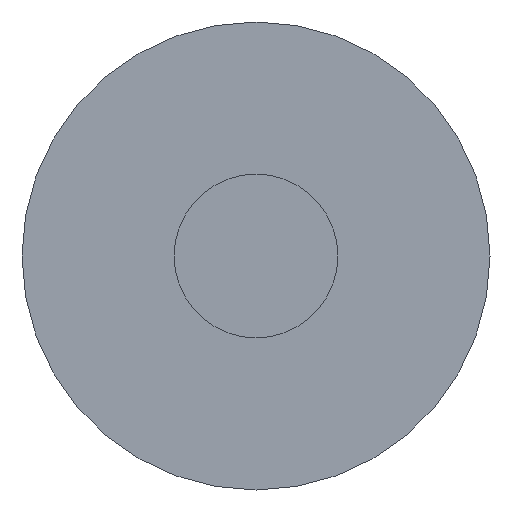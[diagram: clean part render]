
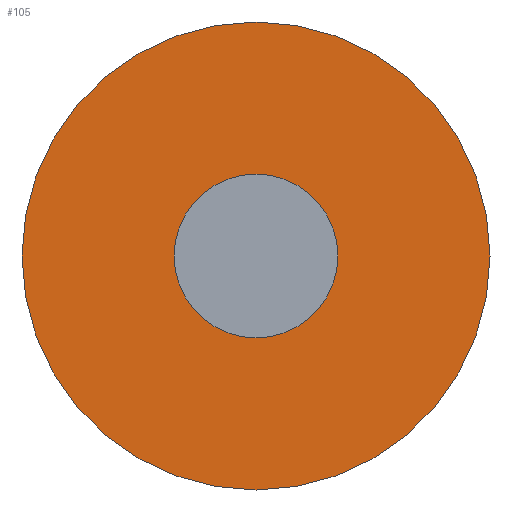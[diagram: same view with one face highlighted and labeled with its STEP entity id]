
A CAD part, front view. The second image highlights one B-rep face of the part: STEP entity #105.
In plain terms, the highlighted planar face has unit normal (0, -1, 0).
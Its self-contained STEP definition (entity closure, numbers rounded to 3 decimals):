
#22 = VERTEX_POINT('',#23);
#23 = CARTESIAN_POINT('',(75.,106.2,-239.2));
#32 = CYLINDRICAL_SURFACE('',#33,9.);
#33 = AXIS2_PLACEMENT_3D('',#34,#35,#36);
#34 = CARTESIAN_POINT('',(66.,106.2,-239.2));
#35 = DIRECTION('',(0.,-1.,-0.));
#36 = DIRECTION('',(1.,0.,0.));
#79 = EDGE_CURVE('',#22,#22,#80,.T.);
#80 = SURFACE_CURVE('',#81,(#86,#93),.PCURVE_S1.);
#81 = CIRCLE('',#82,9.);
#82 = AXIS2_PLACEMENT_3D('',#83,#84,#85);
#83 = CARTESIAN_POINT('',(66.,106.2,-239.2));
#84 = DIRECTION('',(-0.,1.,0.));
#85 = DIRECTION('',(1.,0.,0.));
#86 = PCURVE('',#32,#87);
#87 = DEFINITIONAL_REPRESENTATION('',(#88),#92);
#88 = LINE('',#89,#90);
#89 = CARTESIAN_POINT('',(-0.,0.));
#90 = VECTOR('',#91,1.);
#91 = DIRECTION('',(-1.,0.));
#92 = ( GEOMETRIC_REPRESENTATION_CONTEXT(2) 
PARAMETRIC_REPRESENTATION_CONTEXT() REPRESENTATION_CONTEXT('2D SPACE',''
  ) );
#93 = PCURVE('',#94,#99);
#94 = PLANE('',#95);
#95 = AXIS2_PLACEMENT_3D('',#96,#97,#98);
#96 = CARTESIAN_POINT('',(66.,106.2,-239.2));
#97 = DIRECTION('',(0.,1.,0.));
#98 = DIRECTION('',(0.,-0.,1.));
#99 = DEFINITIONAL_REPRESENTATION('',(#100),#104);
#100 = CIRCLE('',#101,9.);
#101 = AXIS2_PLACEMENT_2D('',#102,#103);
#102 = CARTESIAN_POINT('',(0.,0.));
#103 = DIRECTION('',(0.,1.));
#104 = ( GEOMETRIC_REPRESENTATION_CONTEXT(2) 
PARAMETRIC_REPRESENTATION_CONTEXT() REPRESENTATION_CONTEXT('2D SPACE',''
  ) );
#105 = ADVANCED_FACE('',(#106,#109),#94,.F.);
#106 = FACE_BOUND('',#107,.F.);
#107 = EDGE_LOOP('',(#108));
#108 = ORIENTED_EDGE('',*,*,#79,.T.);
#109 = FACE_BOUND('',#110,.F.);
#110 = EDGE_LOOP('',(#111));
#111 = ORIENTED_EDGE('',*,*,#112,.F.);
#112 = EDGE_CURVE('',#113,#113,#115,.T.);
#113 = VERTEX_POINT('',#114);
#114 = CARTESIAN_POINT('',(69.15,106.2,-239.2));
#115 = SURFACE_CURVE('',#116,(#121,#128),.PCURVE_S1.);
#116 = CIRCLE('',#117,3.15);
#117 = AXIS2_PLACEMENT_3D('',#118,#119,#120);
#118 = CARTESIAN_POINT('',(66.,106.2,-239.2));
#119 = DIRECTION('',(-0.,1.,0.));
#120 = DIRECTION('',(1.,0.,0.));
#121 = PCURVE('',#94,#122);
#122 = DEFINITIONAL_REPRESENTATION('',(#123),#127);
#123 = CIRCLE('',#124,3.15);
#124 = AXIS2_PLACEMENT_2D('',#125,#126);
#125 = CARTESIAN_POINT('',(0.,0.));
#126 = DIRECTION('',(0.,1.));
#127 = ( GEOMETRIC_REPRESENTATION_CONTEXT(2) 
PARAMETRIC_REPRESENTATION_CONTEXT() REPRESENTATION_CONTEXT('2D SPACE',''
  ) );
#128 = PCURVE('',#129,#134);
#129 = CYLINDRICAL_SURFACE('',#130,3.15);
#130 = AXIS2_PLACEMENT_3D('',#131,#132,#133);
#131 = CARTESIAN_POINT('',(66.,54.7,-239.2));
#132 = DIRECTION('',(0.,-1.,-0.));
#133 = DIRECTION('',(1.,0.,0.));
#134 = DEFINITIONAL_REPRESENTATION('',(#135),#139);
#135 = LINE('',#136,#137);
#136 = CARTESIAN_POINT('',(-0.,-51.5));
#137 = VECTOR('',#138,1.);
#138 = DIRECTION('',(-1.,0.));
#139 = ( GEOMETRIC_REPRESENTATION_CONTEXT(2) 
PARAMETRIC_REPRESENTATION_CONTEXT() REPRESENTATION_CONTEXT('2D SPACE',''
  ) );
